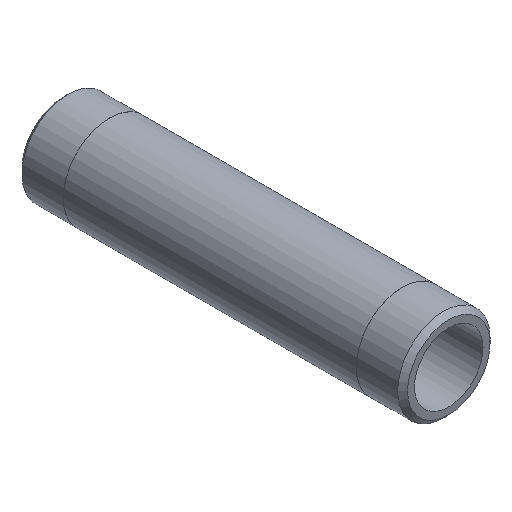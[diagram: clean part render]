
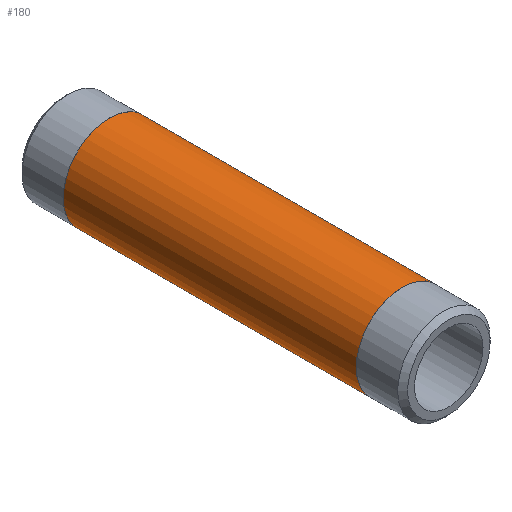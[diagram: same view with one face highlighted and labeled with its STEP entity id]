
A CAD part, isometric view. The second image highlights one B-rep face of the part: STEP entity #180.
In plain terms, the highlighted cylindrical face has radius 10.668 mm (diameter 21.336 mm), a full revolution.
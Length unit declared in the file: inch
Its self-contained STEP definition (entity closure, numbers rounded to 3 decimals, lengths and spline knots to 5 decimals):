
#25=CYLINDRICAL_SURFACE('',#220,0.42);
#34=FACE_OUTER_BOUND('',#47,.T.);
#47=EDGE_LOOP('',(#155,#156,#157,#158,#159,#160));
#55=LINE('',#338,#61);
#61=VECTOR('',#283,0.42);
#77=CIRCLE('',#218,0.42);
#78=CIRCLE('',#219,0.42);
#79=CIRCLE('',#221,0.42);
#80=CIRCLE('',#222,0.42);
#95=VERTEX_POINT('',#329);
#96=VERTEX_POINT('',#330);
#97=VERTEX_POINT('',#334);
#98=VERTEX_POINT('',#335);
#117=EDGE_CURVE('',#95,#96,#77,.T.);
#118=EDGE_CURVE('',#96,#95,#78,.T.);
#119=EDGE_CURVE('',#97,#98,#79,.T.);
#120=EDGE_CURVE('',#98,#97,#80,.T.);
#121=EDGE_CURVE('',#98,#96,#55,.T.);
#155=ORIENTED_EDGE('',*,*,#119,.F.);
#156=ORIENTED_EDGE('',*,*,#120,.F.);
#157=ORIENTED_EDGE('',*,*,#121,.T.);
#158=ORIENTED_EDGE('',*,*,#118,.T.);
#159=ORIENTED_EDGE('',*,*,#117,.T.);
#160=ORIENTED_EDGE('',*,*,#121,.F.);
#180=ADVANCED_FACE('',(#34),#25,.T.);
#218=AXIS2_PLACEMENT_3D('',#331,#273,#274);
#219=AXIS2_PLACEMENT_3D('',#332,#275,#276);
#220=AXIS2_PLACEMENT_3D('',#333,#277,#278);
#221=AXIS2_PLACEMENT_3D('',#336,#279,#280);
#222=AXIS2_PLACEMENT_3D('',#337,#281,#282);
#273=DIRECTION('center_axis',(0.,-1.,0.));
#274=DIRECTION('ref_axis',(1.,0.,0.));
#275=DIRECTION('center_axis',(0.,-1.,0.));
#276=DIRECTION('ref_axis',(1.,0.,0.));
#277=DIRECTION('center_axis',(0.,-1.,0.));
#278=DIRECTION('ref_axis',(0.,0.,-1.));
#279=DIRECTION('center_axis',(0.,-1.,0.));
#280=DIRECTION('ref_axis',(1.,0.,0.));
#281=DIRECTION('center_axis',(0.,-1.,0.));
#282=DIRECTION('ref_axis',(1.,0.,0.));
#283=DIRECTION('',(0.,1.,0.));
#329=CARTESIAN_POINT('',(0.,3.08,-0.42));
#330=CARTESIAN_POINT('',(0.,3.08,0.42));
#331=CARTESIAN_POINT('Origin',(0.,3.08,0.));
#332=CARTESIAN_POINT('Origin',(0.,3.08,0.));
#333=CARTESIAN_POINT('Origin',(0.,1.75,0.));
#334=CARTESIAN_POINT('',(0.,0.42,-0.42));
#335=CARTESIAN_POINT('',(0.,0.42,0.42));
#336=CARTESIAN_POINT('Origin',(0.,0.42,0.));
#337=CARTESIAN_POINT('Origin',(0.,0.42,0.));
#338=CARTESIAN_POINT('',(0.,1.75,0.42));
